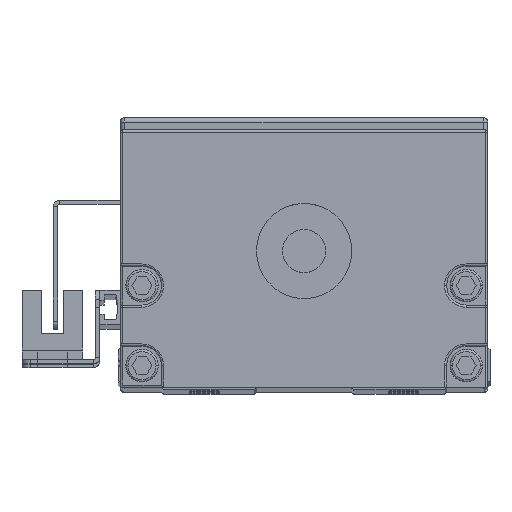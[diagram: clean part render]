
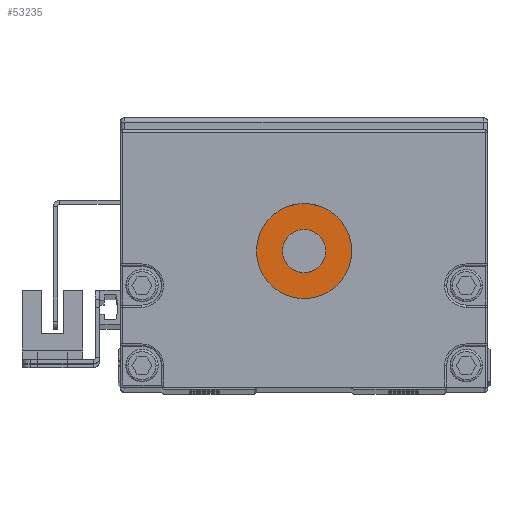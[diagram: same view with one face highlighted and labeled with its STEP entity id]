
A CAD part, top view. The second image highlights one B-rep face of the part: STEP entity #53235.
In plain terms, the highlighted planar face has unit normal (0, 0, 1).
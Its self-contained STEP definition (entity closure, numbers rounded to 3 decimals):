
#304 = VERTEX_POINT ( 'NONE', #3680 ) ;
#692 = DIRECTION ( 'NONE',  ( 0., 0., 1. ) ) ;
#877 = AXIS2_PLACEMENT_3D ( 'NONE', #25964, #692, #27049 ) ;
#1505 = VERTEX_POINT ( 'NONE', #38821 ) ;
#3680 = CARTESIAN_POINT ( 'NONE',  ( -5., 32., 649. ) ) ;
#5153 = CIRCLE ( 'NONE', #877, 11. ) ;
#6759 = EDGE_CURVE ( 'NONE', #304, #1505, #40826, .T. ) ;
#7094 = EDGE_LOOP ( 'NONE', ( #14154, #43206 ) ) ;
#7356 = ORIENTED_EDGE ( 'NONE', *, *, #6759, .F. ) ;
#8072 = CARTESIAN_POINT ( 'NONE',  ( 11., 32., 649. ) ) ;
#8471 = FACE_BOUND ( 'NONE', #14034, .T. ) ;
#8772 = DIRECTION ( 'NONE',  ( 0., 0., 1. ) ) ;
#12135 = DIRECTION ( 'NONE',  ( 0., 0., 1. ) ) ;
#12316 = CARTESIAN_POINT ( 'NONE',  ( 0., 32., 649. ) ) ;
#13033 = CARTESIAN_POINT ( 'NONE',  ( -11., 32., 649. ) ) ;
#14034 = EDGE_LOOP ( 'NONE', ( #7356, #21902 ) ) ;
#14154 = ORIENTED_EDGE ( 'NONE', *, *, #25210, .T. ) ;
#14581 = AXIS2_PLACEMENT_3D ( 'NONE', #38189, #8772, #50802 ) ;
#15031 = CIRCLE ( 'NONE', #14581, 11. ) ;
#16026 = DIRECTION ( 'NONE',  ( 1., 0., 0. ) ) ;
#21902 = ORIENTED_EDGE ( 'NONE', *, *, #29578, .F. ) ;
#22680 = CARTESIAN_POINT ( 'NONE',  ( 0., 32., 649. ) ) ;
#24384 = AXIS2_PLACEMENT_3D ( 'NONE', #22680, #31662, #31309 ) ;
#25210 = EDGE_CURVE ( 'NONE', #54139, #53400, #15031, .T. ) ;
#25964 = CARTESIAN_POINT ( 'NONE',  ( 0., 32., 649. ) ) ;
#27049 = DIRECTION ( 'NONE',  ( 1., 0., 0. ) ) ;
#29134 = AXIS2_PLACEMENT_3D ( 'NONE', #33473, #12135, #16026 ) ;
#29578 = EDGE_CURVE ( 'NONE', #1505, #304, #54279, .T. ) ;
#31309 = DIRECTION ( 'NONE',  ( 1., 0., 0. ) ) ;
#31662 = DIRECTION ( 'NONE',  ( 0., 0., 1. ) ) ;
#33473 = CARTESIAN_POINT ( 'NONE',  ( 0., 32., 649. ) ) ;
#38027 = DIRECTION ( 'NONE',  ( 0., 0., 1. ) ) ;
#38189 = CARTESIAN_POINT ( 'NONE',  ( 0., 32., 649. ) ) ;
#38699 = FACE_OUTER_BOUND ( 'NONE', #7094, .T. ) ;
#38821 = CARTESIAN_POINT ( 'NONE',  ( 5., 32., 649. ) ) ;
#40826 = CIRCLE ( 'NONE', #41718, 5. ) ;
#41718 = AXIS2_PLACEMENT_3D ( 'NONE', #12316, #38027, #50641 ) ;
#43206 = ORIENTED_EDGE ( 'NONE', *, *, #53430, .T. ) ;
#49902 = PLANE ( 'NONE',  #29134 ) ;
#50641 = DIRECTION ( 'NONE',  ( 1., 0., 0. ) ) ;
#50802 = DIRECTION ( 'NONE',  ( 1., 0., 0. ) ) ;
#53235 = ADVANCED_FACE ( 'NONE', ( #38699, #8471 ), #49902, .T. ) ;
#53400 = VERTEX_POINT ( 'NONE', #13033 ) ;
#53430 = EDGE_CURVE ( 'NONE', #53400, #54139, #5153, .T. ) ;
#54139 = VERTEX_POINT ( 'NONE', #8072 ) ;
#54279 = CIRCLE ( 'NONE', #24384, 5. ) ;
